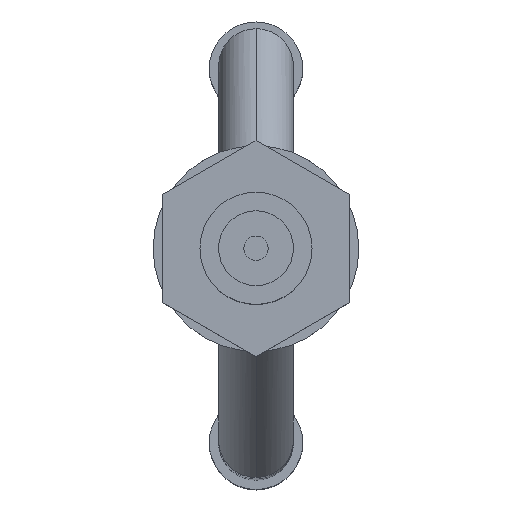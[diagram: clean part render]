
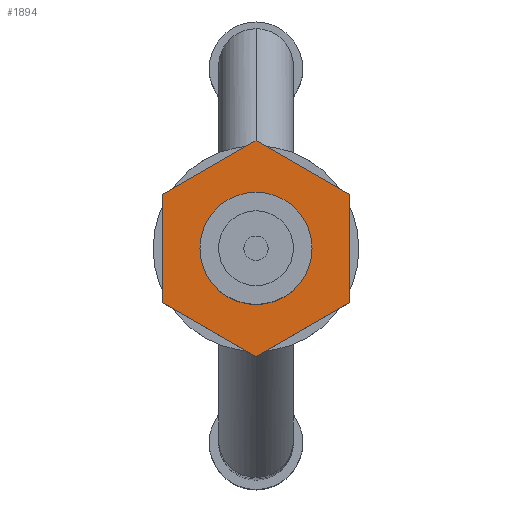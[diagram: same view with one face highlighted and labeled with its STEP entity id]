
A CAD part, top view. The second image highlights one B-rep face of the part: STEP entity #1894.
In plain terms, the highlighted planar face has unit normal (0, 0, 1) as drawn and (-1, 0, 0) by its records, which use the part's own axes.
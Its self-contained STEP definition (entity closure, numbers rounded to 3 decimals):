
#728 = DIRECTION ( 'NONE',  ( 0., -1., 0. ) ) ;
#729 = DIRECTION ( 'NONE',  ( -1., 0., 0. ) ) ;
#730 = AXIS2_PLACEMENT_3D ( 'NONE', #735, #729, #728 ) ;
#731 = CIRCLE ( 'NONE', #730, 3. ) ;
#735 = CARTESIAN_POINT ( 'NONE',  ( 9., 0., 0. ) ) ;
#788 = CARTESIAN_POINT ( 'NONE',  ( 9., -3., 0. ) ) ;
#789 = CARTESIAN_POINT ( 'NONE',  ( 9., 3., 0. ) ) ;
#838 = DIRECTION ( 'NONE',  ( 0., -1., 0. ) ) ;
#839 = DIRECTION ( 'NONE',  ( -1., 0., 0. ) ) ;
#840 = CARTESIAN_POINT ( 'NONE',  ( 9., 0., 0. ) ) ;
#841 = AXIS2_PLACEMENT_3D ( 'NONE', #840, #839, #838 ) ;
#842 = CIRCLE ( 'NONE', #841, 3. ) ;
#843 = DIRECTION ( 'NONE',  ( 0., 1., 0. ) ) ;
#844 = VECTOR ( 'NONE', #843, 1000. ) ;
#845 = CARTESIAN_POINT ( 'NONE',  ( 9., -2.887, 5. ) ) ;
#846 = LINE ( 'NONE', #845, #844 ) ;
#847 = CARTESIAN_POINT ( 'NONE',  ( 9., -2.887, 5. ) ) ;
#848 = DIRECTION ( 'NONE',  ( 0., 0.5, 0.866 ) ) ;
#849 = VECTOR ( 'NONE', #848, 1000. ) ;
#850 = CARTESIAN_POINT ( 'NONE',  ( 9., -5.774, 0. ) ) ;
#851 = LINE ( 'NONE', #850, #849 ) ;
#852 = DIRECTION ( 'NONE',  ( 0., -0.5, 0.866 ) ) ;
#853 = VECTOR ( 'NONE', #852, 1000. ) ;
#854 = CARTESIAN_POINT ( 'NONE',  ( 9., -2.887, -5. ) ) ;
#855 = LINE ( 'NONE', #854, #853 ) ;
#864 = CARTESIAN_POINT ( 'NONE',  ( 9., -5.774, 0. ) ) ;
#865 = CARTESIAN_POINT ( 'NONE',  ( 9., -2.887, -5. ) ) ;
#866 = DIRECTION ( 'NONE',  ( 0., -1., 0. ) ) ;
#867 = VECTOR ( 'NONE', #866, 1000. ) ;
#868 = CARTESIAN_POINT ( 'NONE',  ( 9., 2.887, -5. ) ) ;
#869 = LINE ( 'NONE', #868, #867 ) ;
#870 = CARTESIAN_POINT ( 'NONE',  ( 9., 2.887, -5. ) ) ;
#871 = DIRECTION ( 'NONE',  ( 0., -0.5, -0.866 ) ) ;
#872 = VECTOR ( 'NONE', #871, 1000. ) ;
#873 = CARTESIAN_POINT ( 'NONE',  ( 9., 5.774, 0. ) ) ;
#874 = LINE ( 'NONE', #873, #872 ) ;
#875 = CARTESIAN_POINT ( 'NONE',  ( 9., 5.774, 0. ) ) ;
#876 = CARTESIAN_POINT ( 'NONE',  ( 9., 2.887, 5. ) ) ;
#877 = DIRECTION ( 'NONE',  ( 0., 0.5, -0.866 ) ) ;
#878 = VECTOR ( 'NONE', #877, 1000. ) ;
#879 = CARTESIAN_POINT ( 'NONE',  ( 9., 2.887, 5. ) ) ;
#880 = LINE ( 'NONE', #879, #878 ) ;
#881 = DIRECTION ( 'NONE',  ( 0., 1., 0. ) ) ;
#882 = DIRECTION ( 'NONE',  ( 1., 0., 0. ) ) ;
#883 = CARTESIAN_POINT ( 'NONE',  ( 9., 0., 10. ) ) ;
#884 = AXIS2_PLACEMENT_3D ( 'NONE', #883, #882, #881 ) ;
#885 = PLANE ( 'NONE',  #884 ) ;
#886 = FACE_BOUND ( 'NONE', #1884, .T. ) ;
#887 = FACE_OUTER_BOUND ( 'NONE', #1895, .T. ) ;
#1835 = EDGE_CURVE ( 'NONE', #1836, #1837, #731, .T. ) ;
#1836 = VERTEX_POINT ( 'NONE', #789 ) ;
#1837 = VERTEX_POINT ( 'NONE', #788 ) ;
#1878 = EDGE_CURVE ( 'NONE', #1905, #1907, #855, .T. ) ;
#1879 = ORIENTED_EDGE ( 'NONE', *, *, #1880, .T. ) ;
#1880 = EDGE_CURVE ( 'NONE', #1907, #1881, #851, .T. ) ;
#1881 = VERTEX_POINT ( 'NONE', #847 ) ;
#1882 = ORIENTED_EDGE ( 'NONE', *, *, #1883, .T. ) ;
#1883 = EDGE_CURVE ( 'NONE', #1881, #1898, #846, .T. ) ;
#1884 = EDGE_LOOP ( 'NONE', ( #1885, #1886 ) ) ;
#1885 = ORIENTED_EDGE ( 'NONE', *, *, #1835, .F. ) ;
#1886 = ORIENTED_EDGE ( 'NONE', *, *, #1887, .F. ) ;
#1887 = EDGE_CURVE ( 'NONE', #1837, #1836, #842, .T. ) ;
#1894 = ADVANCED_FACE ( 'NONE', ( #887, #886 ), #885, .F. ) ;
#1895 = EDGE_LOOP ( 'NONE', ( #1896, #1900, #1903, #1906, #1879, #1882 ) ) ;
#1896 = ORIENTED_EDGE ( 'NONE', *, *, #1897, .T. ) ;
#1897 = EDGE_CURVE ( 'NONE', #1898, #1899, #880, .T. ) ;
#1898 = VERTEX_POINT ( 'NONE', #876 ) ;
#1899 = VERTEX_POINT ( 'NONE', #875 ) ;
#1900 = ORIENTED_EDGE ( 'NONE', *, *, #1901, .T. ) ;
#1901 = EDGE_CURVE ( 'NONE', #1899, #1902, #874, .T. ) ;
#1902 = VERTEX_POINT ( 'NONE', #870 ) ;
#1903 = ORIENTED_EDGE ( 'NONE', *, *, #1904, .T. ) ;
#1904 = EDGE_CURVE ( 'NONE', #1902, #1905, #869, .T. ) ;
#1905 = VERTEX_POINT ( 'NONE', #865 ) ;
#1906 = ORIENTED_EDGE ( 'NONE', *, *, #1878, .T. ) ;
#1907 = VERTEX_POINT ( 'NONE', #864 ) ;
